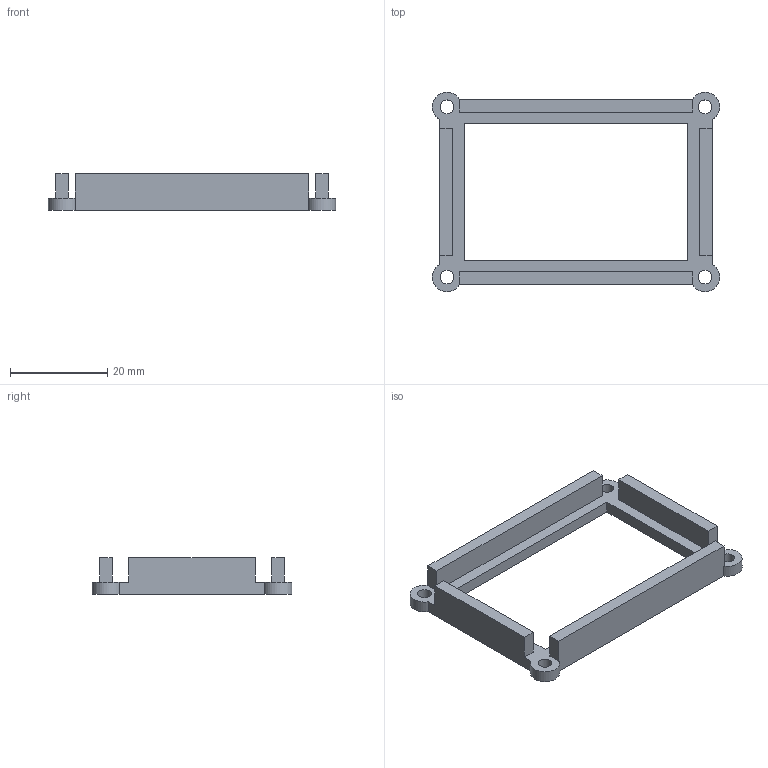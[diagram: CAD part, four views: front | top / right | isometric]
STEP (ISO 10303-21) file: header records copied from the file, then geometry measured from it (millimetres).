
FILE_DESCRIPTION(('Open CASCADE Model'),'2;1');
FILE_NAME('Open CASCADE Shape Model','2026-11-11T15:03:46',('Author'),( 'Open CASCADE'),'Open CASCADE STEP processor 7.8','Open CASCADE 7.8' ,'Unknown');
FILE_SCHEMA(('AUTOMOTIVE_DESIGN { 1 0 10303 214 1 1 1 1 }'));
Length unit declared in the file: millimetre
Products named in the file (1): Open CASCADE STEP translator 7.8 4
Bounding box: 59 x 41 x 7.5 mm (x, y, z)
Volume: 4011.8 mm3; surface area: 4363.7 mm2
Topology: 1 solids, 1 shells, 54 faces, 144 edges, 96 vertices
Faces by surface type: plane 46, cylinder 8
Full cylindrical faces by diameter (mm): 2.8 x4
Entity records: 3596 total; most frequent: CARTESIAN_POINT 643, DIRECTION 548, LINE 400, VECTOR 400, ORIENTED_EDGE 288, PCURVE 288, DEFINITIONAL_REPRESENTATION 288, EDGE_CURVE 144
